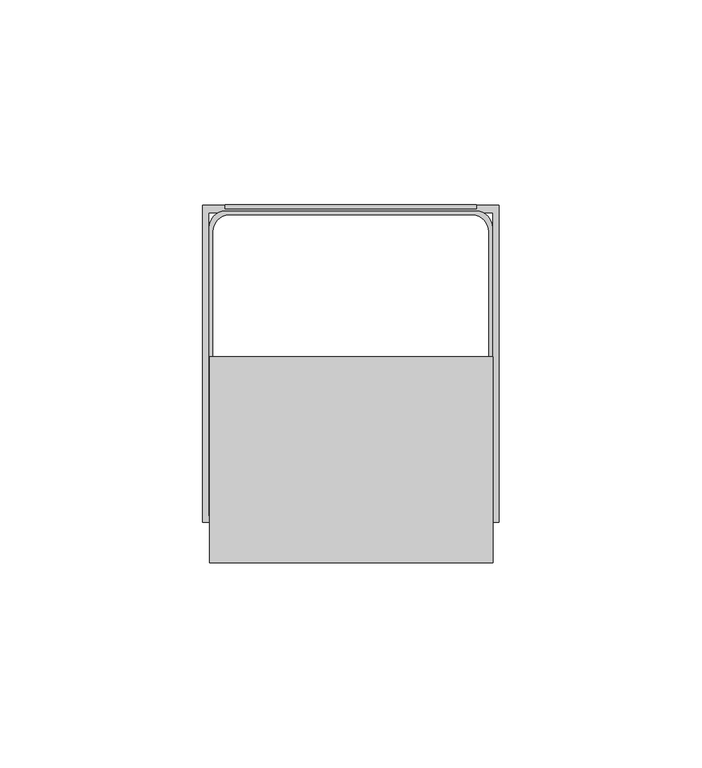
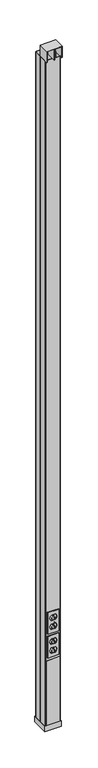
"""IFC4 building model written with IfcOpenShell, lengths in millimetres: proxy geometry, Vertical_Drop_Pole-Wiremold-Tele_Power_Pole-4V : 30TP-4V3S2."""

from ifc_helpers import new_model, si_unit, point, frame, frame_2d, origin, origin_with_axes, place, context, project, spatial, polyline, circle_curve, trimmed, segment, composite_curve, outline, extrude, source, transform, mapped, element, save


def electrical_fixtures_8ffac198(model_context):
    return source(origin(), model_context, "Body", "SweptSolid", [
        extrude(outline(polyline([(-31.0005859, 79.5967362), (30.9994141, 79.5967362), (30.9994141, 78.5967362), (-31.0005859, 78.5967362), (-31.0005859, 79.5967362)])), frame((0.0, 0.0, 25.4), z_axis=(0.0, 0.0, 1.0), x_axis=(1.0, 0.0, 0.0)), (0.0, 0.0, 1.0), 306.3875),
        extrude(outline(polyline([(30.9994141, 3.0842362), (-31.0005859, 3.0842362), (-31.0005859, 4.0842362), (30.9994141, 4.0842362), (30.9994141, 3.0842362)])), frame((0.0, 0.0, 25.4), z_axis=(0.0, 0.0, 1.0), x_axis=(1.0, 0.0, 0.0)), (0.0, 0.0, 1.0), 306.3875),
        extrude(outline(polyline([(-0.8191406, -9.1282089), (-0.8191406, 41.6717911), (0.9667969, 41.6717911), (0.9667969, -9.1282089), (-0.8191406, -9.1282089)])), frame((0.0, 0.0, 3175.0), z_axis=(0.0, 0.0, 1.0), x_axis=(1.0, 0.0, 0.0)), (0.0, 0.0, 1.0), 50.8),
        extrude(outline(polyline([(-23.8231255, 40.0842911), (23.9707817, 40.0842911), (23.9707817, 38.4967911), (-23.8231255, 38.4967911), (-23.8231255, 40.0842911)])), frame((0.0, 0.0, 3148.0125), z_axis=(0.0, 0.0, 1.0), x_axis=(1.0, 0.0, 0.0)), (0.0, 0.0, 1.0), 26.9875),
        extrude(outline(polyline([(-33.2636719, 41.6717911), (33.4113281, 41.6717911), (33.4113281, 40.0842911), (-33.2636719, 40.0842911), (-33.2636719, 41.6717911)])), frame((0.0, 0.0, 3175.0), z_axis=(0.0, 0.0, 1.0), x_axis=(1.0, 0.0, 0.0)), (0.0, 0.0, 1.0), 50.8),
        extrude(outline(polyline([(-34.8511719, -9.1282089), (-34.8511719, 41.6717911), (-33.2636719, 41.6717911), (-33.2636719, -9.1282089), (-34.8511719, -9.1282089)])), frame((0.0, 0.0, 3175.0), z_axis=(0.0, 0.0, 1.0), x_axis=(1.0, 0.0, 0.0)), (0.0, 0.0, 1.0), 50.8),
        extrude(outline(polyline([(33.4113281, -9.1282089), (33.4113281, 41.6717911), (34.9988281, 41.6717911), (34.9988281, -9.1282089), (33.4113281, -9.1282089)])), frame((0.0, 0.0, 3175.0), z_axis=(0.0, 0.0, 1.0), x_axis=(1.0, 0.0, 0.0)), (0.0, 0.0, 1.0), 50.8),
        extrude(outline(polyline([(-34.8511719, -9.1282089), (-34.8511719, 41.6717911), (34.9988281, 41.6717911), (34.9988281, -9.1282089), (-34.8511719, -9.1282089)])), frame((0.0, 0.0, 3225.8), z_axis=(0.0, 0.0, 1.0), x_axis=(1.0, 0.0, 0.0)), (0.0, 0.0, 1.0), 1.5875),
        extrude(outline(polyline([(560.1033963, 25.4), (560.1033963, -25.4), (458.5033963, -25.4), (458.5033963, 25.4), (560.1033963, 25.4)]), holes=[composite_curve([segment(polyline([(543.1865995, -7.9339585), (543.1865995, 8.0597711)]), True, "CONTINUOUS"), segment(trimmed(circle_curve(frame_2d((531.1153276, 0.9957546)), 13.9862766), [point((543.1865995, 8.0597711))], [point((531.1153276, 14.9820313))], True, "CARTESIAN"), True, "CONTINUOUS"), segment(polyline([(531.1153276, 14.9820313), (529.0278245, 14.9820313)]), True, "CONTINUOUS"), segment(trimmed(circle_curve(frame_2d((529.0278245, 0.9820313)), 14.0), [point((529.0278245, 14.9820313))], [point((517.191287, 8.4584194))], True, "CARTESIAN"), True, "CONTINUOUS"), segment(polyline([(517.191287, 8.4584194), (517.191287, -8.3446349)]), True, "CONTINUOUS"), segment(trimmed(circle_curve(frame_2d((529.1556013, -0.8801276)), 14.1019036), [point((517.191287, -8.3446349))], [point((529.1556013, -14.9820312))], True, "CARTESIAN"), True, "CONTINUOUS"), segment(polyline([(529.1556013, -14.9820312), (531.0731263, -14.9820312)]), True, "CONTINUOUS"), segment(trimmed(circle_curve(frame_2d((531.0731263, -1.0483243)), 13.933707), [point((531.0731263, -14.9820312))], [point((543.1865995, -7.9339585))], True, "CARTESIAN"), True, "CONTINUOUS")], self_intersect=False), composite_curve([segment(polyline([(501.4155057, -8.6075876), (501.4155057, 8.7168414)]), True, "CONTINUOUS"), segment(trimmed(circle_curve(frame_2d((489.7577624, 1.0035576)), 13.9784736), [point((501.4155057, 8.7168414))], [point((489.7577624, 14.9820313))], True, "CARTESIAN"), True, "CONTINUOUS"), segment(polyline([(489.7577624, 14.9820313), (487.6633022, 14.9820313)]), True, "CONTINUOUS"), segment(trimmed(circle_curve(frame_2d((487.6633022, 0.9731741)), 14.0088572), [point((487.6633022, 14.9820313))], [point((475.4201932, 7.7815778))], True, "CARTESIAN"), True, "CONTINUOUS"), segment(polyline([(475.4201932, 7.7815778), (475.4201932, -7.6594621)]), True, "CONTINUOUS"), segment(trimmed(circle_curve(frame_2d((487.7909059, -0.8712357)), 14.1107955), [point((475.4201932, -7.6594621))], [point((487.7909059, -14.9820312))], True, "CARTESIAN"), True, "CONTINUOUS"), segment(polyline([(487.7909059, -14.9820312), (489.7155811, -14.9820312)]), True, "CONTINUOUS"), segment(trimmed(circle_curve(frame_2d((489.7155811, -1.0575402)), 13.9244911), [point((489.7155811, -14.9820312))], [point((501.4155057, -8.6075876))], True, "CARTESIAN"), True, "CONTINUOUS")], self_intersect=False)]), frame((0.0, -0.0907638, 0.0), z_axis=(0.0, 1.0, 0.0), x_axis=(0.0, 0.0, 1.0)), (0.0, 0.0, 1.0), 3.175),
        extrude(outline(polyline([(447.4405057, 25.4), (447.4405057, -25.4), (345.8405057, -25.4), (345.8405057, 25.4), (447.4405057, 25.4)]), holes=[composite_curve([segment(polyline([(430.5237088, -7.9339585), (430.5237088, 8.0597711)]), True, "CONTINUOUS"), segment(trimmed(circle_curve(frame_2d((418.4524369, 0.9957546)), 13.9862766), [point((430.5237088, 8.0597711))], [point((418.4524369, 14.9820313))], True, "CARTESIAN"), True, "CONTINUOUS"), segment(polyline([(418.4524369, 14.9820313), (416.3649338, 14.9820313)]), True, "CONTINUOUS"), segment(trimmed(circle_curve(frame_2d((416.3649338, 0.9820313)), 14.0), [point((416.3649338, 14.9820313))], [point((404.5283963, 8.4584194))], True, "CARTESIAN"), True, "CONTINUOUS"), segment(polyline([(404.5283963, 8.4584194), (404.5283963, -8.3446349)]), True, "CONTINUOUS"), segment(trimmed(circle_curve(frame_2d((416.4927107, -0.8801276)), 14.1019036), [point((404.5283963, -8.3446349))], [point((416.4927107, -14.9820312))], True, "CARTESIAN"), True, "CONTINUOUS"), segment(polyline([(416.4927107, -14.9820312), (418.4102357, -14.9820312)]), True, "CONTINUOUS"), segment(trimmed(circle_curve(frame_2d((418.4102357, -1.0483243)), 13.933707), [point((418.4102357, -14.9820312))], [point((430.5237088, -7.9339585))], True, "CARTESIAN"), True, "CONTINUOUS")], self_intersect=False), composite_curve([segment(polyline([(388.7526151, -8.6075876), (388.7526151, 8.7168414)]), True, "CONTINUOUS"), segment(trimmed(circle_curve(frame_2d((377.0948718, 1.0035576)), 13.9784736), [point((388.7526151, 8.7168414))], [point((377.0948718, 14.9820313))], True, "CARTESIAN"), True, "CONTINUOUS"), segment(polyline([(377.0948718, 14.9820313), (375.0004116, 14.9820313)]), True, "CONTINUOUS"), segment(trimmed(circle_curve(frame_2d((375.0004116, 0.9731741)), 14.0088572), [point((375.0004116, 14.9820313))], [point((362.7573026, 7.7815778))], True, "CARTESIAN"), True, "CONTINUOUS"), segment(polyline([(362.7573026, 7.7815778), (362.7573026, -7.6594621)]), True, "CONTINUOUS"), segment(trimmed(circle_curve(frame_2d((375.1280153, -0.8712357)), 14.1107955), [point((362.7573026, -7.6594621))], [point((375.1280153, -14.9820312))], True, "CARTESIAN"), True, "CONTINUOUS"), segment(polyline([(375.1280153, -14.9820312), (377.0526905, -14.9820312)]), True, "CONTINUOUS"), segment(trimmed(circle_curve(frame_2d((377.0526905, -1.0575402)), 13.9244911), [point((377.0526905, -14.9820312))], [point((388.7526151, -8.6075876))], True, "CARTESIAN"), True, "CONTINUOUS")], self_intersect=False)]), frame((0.0, -0.0907638, 0.0), z_axis=(0.0, 1.0, 0.0), x_axis=(0.0, 0.0, 1.0)), (0.0, 0.0, 1.0), 3.175),
        extrude(outline(composite_curve([segment(trimmed(circle_curve(frame_2d((530.9960144, -1.041191)), 13.931831), [point((543.1368495, -7.874641))], [point((530.9960144, -14.973022))], False, "CARTESIAN"), True, "CONTINUOUS"), segment(polyline([(530.9960144, -14.973022), (529.0793217, -14.973022)]), True, "CONTINUOUS"), segment(trimmed(circle_curve(frame_2d((529.0793217, -0.8694684)), 14.1035536), [point((529.0793217, -14.973022))], [point((517.1416776, -8.3796533))], False, "CARTESIAN"), True, "CONTINUOUS"), segment(polyline([(517.1416776, -8.3796533), (517.1416776, 8.5109299)]), True, "CONTINUOUS"), segment(trimmed(circle_curve(frame_2d((528.9515186, 0.9894138)), 14.0016266), [point((517.1416776, 8.5109299))], [point((528.9515186, 14.9910405))], False, "CARTESIAN"), True, "CONTINUOUS"), segment(polyline([(528.9515186, 14.9910405), (531.0381621, 14.9910405)]), True, "CONTINUOUS"), segment(trimmed(circle_curve(frame_2d((531.0381621, 1.0065929)), 13.9844475), [point((531.0381621, 14.9910405))], [point((543.1368495, 8.0199042))], False, "CARTESIAN"), True, "CONTINUOUS"), segment(polyline([(543.1368495, 8.0199042), (543.1368495, -7.874641)]), True, "CONTINUOUS")], self_intersect=False), holes=[polyline([(529.2416776, -5.4909908), (521.3416776, -5.4909908), (521.3416776, -7.0909908), (529.2416776, -7.0909908), (529.2416776, -5.4909908)]), polyline([(522.1416776, 5.5090092), (528.4416776, 5.5090092), (528.4416776, 7.1090092), (522.1416776, 7.1090092), (522.1416776, 5.5090092)]), composite_curve([segment(polyline([(539.7368495, 2.4), (536.536709, 2.4)]), True, "CONTINUOUS"), segment(trimmed(circle_curve(frame_2d((536.536709, 0.0)), 2.4), [point((536.536709, 2.4))], [point((536.536709, -2.4))], True, "CARTESIAN"), True, "CONTINUOUS"), segment(polyline([(536.536709, -2.4), (539.7368495, -2.4), (539.7368495, 2.4)]), True, "CONTINUOUS")], self_intersect=False)]), frame((0.0, 1.3967362, 0.0), z_axis=(0.0, 1.0, 0.0), x_axis=(0.0, 0.0, 1.0)), (0.0, 0.0, 1.0), 19.89375),
        extrude(outline(composite_curve([segment(polyline([(501.3658963, 8.6933005), (501.3658963, -8.5651486)]), True, "CONTINUOUS"), segment(trimmed(circle_curve(frame_2d((489.6417726, -1.0436022)), 13.9294199), [point((501.3658963, -8.5651486))], [point((489.6417726, -14.973022))], False, "CARTESIAN"), True, "CONTINUOUS"), segment(polyline([(489.6417726, -14.973022), (487.7134744, -14.973022)]), True, "CONTINUOUS"), segment(trimmed(circle_curve(frame_2d((487.7134744, -0.8665933)), 14.1064287), [point((487.7134744, -14.973022))], [point((475.3707244, -7.6965167))], False, "CARTESIAN"), True, "CONTINUOUS"), segment(polyline([(475.3707244, -7.6965167), (475.3707244, 7.8360196)]), True, "CONTINUOUS"), segment(trimmed(circle_curve(frame_2d((487.5859315, 0.9864964)), 14.004544), [point((475.3707244, 7.8360196))], [point((487.5859315, 14.9910405))], False, "CARTESIAN"), True, "CONTINUOUS"), segment(polyline([(487.5859315, 14.9910405), (489.6840838, 14.9910405)]), True, "CONTINUOUS"), segment(trimmed(circle_curve(frame_2d((489.6840838, 1.0077484)), 13.983292), [point((489.6840838, 14.9910405))], [point((501.3658963, 8.6933005))], False, "CARTESIAN"), True, "CONTINUOUS")], self_intersect=False), holes=[polyline([(487.4707244, -5.4909908), (479.5707244, -5.4909908), (479.5707244, -7.0909908), (487.4707244, -7.0909908), (487.4707244, -5.4909908)]), polyline([(480.3707244, 5.5090092), (486.6707244, 5.5090092), (486.6707244, 7.1090092), (480.3707244, 7.1090092), (480.3707244, 5.5090092)]), composite_curve([segment(polyline([(497.9657558, 2.4), (494.7657558, 2.4)]), True, "CONTINUOUS"), segment(trimmed(circle_curve(frame_2d((494.7657558, 0.0)), 2.4), [point((494.7657558, 2.4))], [point((494.7657558, -2.4))], True, "CARTESIAN"), True, "CONTINUOUS"), segment(polyline([(494.7657558, -2.4), (497.9657558, -2.4), (497.9657558, 2.4)]), True, "CONTINUOUS")], self_intersect=False)]), frame((0.0, 1.3967362, 0.0), z_axis=(0.0, 1.0, 0.0), x_axis=(0.0, 0.0, 1.0)), (0.0, 0.0, 1.0), 19.89375),
        extrude(outline(composite_curve([segment(trimmed(circle_curve(frame_2d((418.3827332, -1.041191)), 13.931831), [point((430.5235683, -7.874641))], [point((418.3827332, -14.973022))], False, "CARTESIAN"), True, "CONTINUOUS"), segment(polyline([(418.3827332, -14.973022), (416.4660405, -14.973022)]), True, "CONTINUOUS"), segment(trimmed(circle_curve(frame_2d((416.4660405, -0.8694684)), 14.1035536), [point((416.4660405, -14.973022))], [point((404.5283963, -8.3796533))], False, "CARTESIAN"), True, "CONTINUOUS"), segment(polyline([(404.5283963, -8.3796533), (404.5283963, 8.5109299)]), True, "CONTINUOUS"), segment(trimmed(circle_curve(frame_2d((416.3382373, 0.9894138)), 14.0016266), [point((404.5283963, 8.5109299))], [point((416.3382373, 14.9910405))], False, "CARTESIAN"), True, "CONTINUOUS"), segment(polyline([(416.3382373, 14.9910405), (418.4248808, 14.9910405)]), True, "CONTINUOUS"), segment(trimmed(circle_curve(frame_2d((418.4248808, 1.0065929)), 13.9844475), [point((418.4248808, 14.9910405))], [point((430.5235683, 8.0199042))], False, "CARTESIAN"), True, "CONTINUOUS"), segment(polyline([(430.5235683, 8.0199042), (430.5235683, -7.874641)]), True, "CONTINUOUS")], self_intersect=False), holes=[polyline([(416.6283963, -5.4909908), (408.7283963, -5.4909908), (408.7283963, -7.0909908), (416.6283963, -7.0909908), (416.6283963, -5.4909908)]), polyline([(409.5283963, 5.5090092), (415.8283963, 5.5090092), (415.8283963, 7.1090092), (409.5283963, 7.1090092), (409.5283963, 5.5090092)]), composite_curve([segment(polyline([(427.1235683, 2.4), (423.9234278, 2.4)]), True, "CONTINUOUS"), segment(trimmed(circle_curve(frame_2d((423.9234278, 0.0)), 2.4), [point((423.9234278, 2.4))], [point((423.9234278, -2.4))], True, "CARTESIAN"), True, "CONTINUOUS"), segment(polyline([(423.9234278, -2.4), (427.1235683, -2.4), (427.1235683, 2.4)]), True, "CONTINUOUS")], self_intersect=False)]), frame((0.0, 1.3967362, 0.0), z_axis=(0.0, 1.0, 0.0), x_axis=(0.0, 0.0, 1.0)), (0.0, 0.0, 1.0), 19.89375),
        extrude(outline(composite_curve([segment(polyline([(388.7526151, 8.6933005), (388.7526151, -8.5651486)]), True, "CONTINUOUS"), segment(trimmed(circle_curve(frame_2d((377.0284914, -1.0436022)), 13.9294199), [point((388.7526151, -8.5651486))], [point((377.0284914, -14.973022))], False, "CARTESIAN"), True, "CONTINUOUS"), segment(polyline([(377.0284914, -14.973022), (375.1001931, -14.973022)]), True, "CONTINUOUS"), segment(trimmed(circle_curve(frame_2d((375.1001931, -0.8665933)), 14.1064287), [point((375.1001931, -14.973022))], [point((362.7574431, -7.6965167))], False, "CARTESIAN"), True, "CONTINUOUS"), segment(polyline([(362.7574431, -7.6965167), (362.7574431, 7.8360196)]), True, "CONTINUOUS"), segment(trimmed(circle_curve(frame_2d((374.9726503, 0.9864964)), 14.004544), [point((362.7574431, 7.8360196))], [point((374.9726503, 14.9910405))], False, "CARTESIAN"), True, "CONTINUOUS"), segment(polyline([(374.9726503, 14.9910405), (377.0708025, 14.9910405)]), True, "CONTINUOUS"), segment(trimmed(circle_curve(frame_2d((377.0708025, 1.0077484)), 13.983292), [point((377.0708025, 14.9910405))], [point((388.7526151, 8.6933005))], False, "CARTESIAN"), True, "CONTINUOUS")], self_intersect=False), holes=[polyline([(374.8574431, -5.4909908), (366.9574431, -5.4909908), (366.9574431, -7.0909908), (374.8574431, -7.0909908), (374.8574431, -5.4909908)]), polyline([(367.7574431, 5.5090092), (374.0574431, 5.5090092), (374.0574431, 7.1090092), (367.7574431, 7.1090092), (367.7574431, 5.5090092)]), composite_curve([segment(polyline([(385.3524745, 2.4), (382.1524745, 2.4)]), True, "CONTINUOUS"), segment(trimmed(circle_curve(frame_2d((382.1524745, 0.0)), 2.4), [point((382.1524745, 2.4))], [point((382.1524745, -2.4))], True, "CARTESIAN"), True, "CONTINUOUS"), segment(polyline([(382.1524745, -2.4), (385.3524745, -2.4), (385.3524745, 2.4)]), True, "CONTINUOUS")], self_intersect=False)]), frame((0.0, 1.3967362, 0.0), z_axis=(0.0, 1.0, 0.0), x_axis=(0.0, 0.0, 1.0)), (0.0, 0.0, 1.0), 19.89375),
        extrude(outline(polyline([(-36.5125, 1.4967362), (-36.5125, 79.5967362), (36.5125, 79.5967362), (36.5125, 1.4967362), (-36.5125, 1.4967362)]), holes=[polyline([(34.925, 77.5967362), (-34.925, 77.5967362), (-34.925, 3.0842362), (34.925, 3.0842362), (34.925, 77.5967362)])]), origin_with_axes(), (0.0, 0.0, 1.0), 25.4),
        extrude(outline(composite_curve([segment(polyline([(-34.925, 39.4967362), (-34.925, 73.5967362)]), True, "CONTINUOUS"), segment(trimmed(circle_curve(frame_2d((-30.925, 73.5967362)), 4.0), [point((-34.925, 73.5967362))], [point((-30.925, 77.5967362))], False, "CARTESIAN"), True, "CONTINUOUS"), segment(polyline([(-30.925, 77.5967362), (30.925, 77.5967362)]), True, "CONTINUOUS"), segment(trimmed(circle_curve(frame_2d((30.925, 73.5967362)), 4.0), [point((30.925, 77.5967362))], [point((34.925, 73.5967362))], False, "CARTESIAN"), True, "CONTINUOUS"), segment(polyline([(34.925, 73.5967362), (34.925, 39.4967362), (-34.925, 39.4967362)]), True, "CONTINUOUS")], self_intersect=False), holes=[composite_curve([segment(trimmed(circle_curve(frame_2d((29.925, 72.5967362)), 4.0), [point((33.925, 72.5967362))], [point((29.925, 76.5967362))], True, "CARTESIAN"), True, "CONTINUOUS"), segment(polyline([(29.925, 76.5967362), (-29.925, 76.5967362)]), True, "CONTINUOUS"), segment(trimmed(circle_curve(frame_2d((-29.925, 72.5967362)), 4.0), [point((-29.925, 76.5967362))], [point((-33.925, 72.5967362))], True, "CARTESIAN"), True, "CONTINUOUS"), segment(polyline([(-33.925, 72.5967362), (-33.925, 40.4967362), (33.925, 40.4967362), (33.925, 72.5967362)]), True, "CONTINUOUS")], self_intersect=False)]), origin_with_axes(), (0.0, 0.0, 1.0), 3175.0),
        extrude(outline(composite_curve([segment(polyline([(34.925, 39.4967362), (34.925, 7.0842362)]), True, "CONTINUOUS"), segment(trimmed(circle_curve(frame_2d((30.925, 7.0842362)), 4.0), [point((34.925, 7.0842362))], [point((30.925, 3.0842362))], False, "CARTESIAN"), True, "CONTINUOUS"), segment(polyline([(30.925, 3.0842362), (-30.925, 3.0842362)]), True, "CONTINUOUS"), segment(trimmed(circle_curve(frame_2d((-30.925, 7.0842362)), 4.0), [point((-30.925, 3.0842362))], [point((-34.925, 7.0842362))], False, "CARTESIAN"), True, "CONTINUOUS"), segment(polyline([(-34.925, 7.0842362), (-34.925, 39.4967362), (34.925, 39.4967362)]), True, "CONTINUOUS")], self_intersect=False), holes=[composite_curve([segment(trimmed(circle_curve(frame_2d((-29.925, 8.0842362)), 4.0), [point((-33.925, 8.0842362))], [point((-29.925, 4.0842362))], True, "CARTESIAN"), True, "CONTINUOUS"), segment(polyline([(-29.925, 4.0842362), (29.925, 4.0842362)]), True, "CONTINUOUS"), segment(trimmed(circle_curve(frame_2d((29.925, 8.0842362)), 4.0), [point((29.925, 4.0842362))], [point((33.925, 8.0842362))], True, "CARTESIAN"), True, "CONTINUOUS"), segment(polyline([(33.925, 8.0842362), (33.925, 38.4967362), (-33.925, 38.4967362), (-33.925, 8.0842362)]), True, "CONTINUOUS")], self_intersect=False)]), origin_with_axes(), (0.0, 0.0, 1.0), 3175.0),
    ])


if __name__ == "__main__":
    model = new_model("IFC4")
    model_context = context("Model", 3, world=origin())
    ifc_project = project(units=[si_unit("LENGTHUNIT", "METRE", prefix="MILLI")], contexts=[model_context])
    site = spatial("IfcSite", under=ifc_project)
    building = spatial("IfcBuilding", under=site)
    placement = place(None, origin())
    electrical_fixtures_shape = electrical_fixtures_8ffac198(model_context)
    element("IfcBuildingElementProxy", 1, Name="Vertical_Drop_Pole-Wiremold-Tele_Power_Pole-4V : 30TP-4V3S2", ObjectType="Vertical_Drop_Pole-Wiremold-Tele_Power_Pole-4V : 30TP-4V3S2", at=placement, inside=building, context=model_context, shape_type="MappedRepresentation", body=[
        mapped(electrical_fixtures_shape, transform((0.0, 0.0, 0.0), x_axis=(1.0, 0.0, 0.0), y_axis=(0.0, 1.0, 0.0), z_axis=(0.0, 0.0, 1.0))),
    ])
    save(model, "model.ifc")
